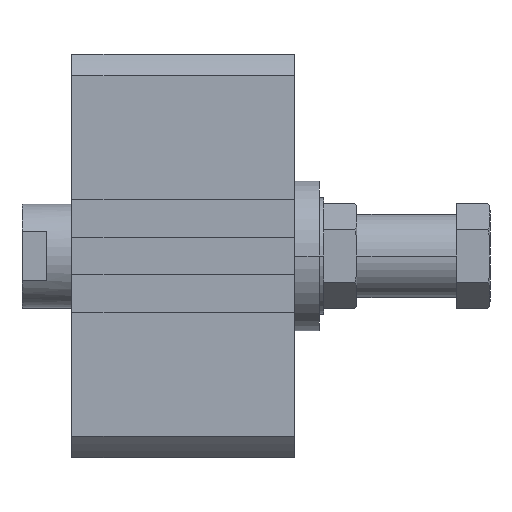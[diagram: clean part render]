
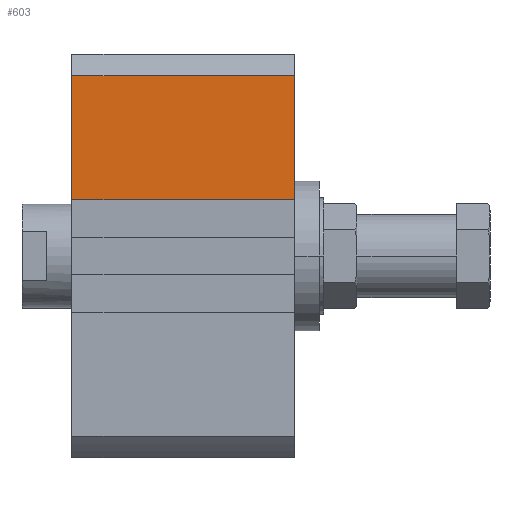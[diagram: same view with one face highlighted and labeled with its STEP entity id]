
A CAD part, left-side view. The second image highlights one B-rep face of the part: STEP entity #603.
In plain terms, the highlighted planar face has unit normal (-1, 0, 0).
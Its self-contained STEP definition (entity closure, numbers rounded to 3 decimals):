
#91 = ORIENTED_EDGE ( 'NONE', *, *, #1215, .F. ) ;
#128 = DIRECTION ( 'NONE',  ( 0., 0., 1. ) ) ;
#129 = ORIENTED_EDGE ( 'NONE', *, *, #3583, .T. ) ;
#195 = LINE ( 'NONE', #1828, #3735 ) ;
#578 = FACE_OUTER_BOUND ( 'NONE', #3543, .T. ) ;
#603 = ADVANCED_FACE ( 'NONE', ( #578 ), #865, .T. ) ;
#865 = PLANE ( 'NONE',  #1961 ) ;
#919 = VERTEX_POINT ( 'NONE', #4372 ) ;
#1024 = DIRECTION ( 'NONE',  ( 0., 1., 0. ) ) ;
#1207 = CARTESIAN_POINT ( 'NONE',  ( -48.5, -53.5, 0. ) ) ;
#1215 = EDGE_CURVE ( 'NONE', #4068, #2865, #2207, .T. ) ;
#1560 = CARTESIAN_POINT ( 'NONE',  ( -48.5, -53.5, 0. ) ) ;
#1564 = DIRECTION ( 'NONE',  ( -1., 0., 0. ) ) ;
#1584 = DIRECTION ( 'NONE',  ( 0., 0., 1. ) ) ;
#1638 = ORIENTED_EDGE ( 'NONE', *, *, #2832, .F. ) ;
#1828 = CARTESIAN_POINT ( 'NONE',  ( -48.5, 0., 0. ) ) ;
#1961 = AXIS2_PLACEMENT_3D ( 'NONE', #1207, #1564, #1584 ) ;
#2207 = LINE ( 'NONE', #2762, #4325 ) ;
#2236 = VECTOR ( 'NONE', #3899, 1000. ) ;
#2407 = VECTOR ( 'NONE', #3994, 1000. ) ;
#2529 = CARTESIAN_POINT ( 'NONE',  ( -48.5, 0., 13.5 ) ) ;
#2641 = ORIENTED_EDGE ( 'NONE', *, *, #3102, .T. ) ;
#2762 = CARTESIAN_POINT ( 'NONE',  ( -48.5, -53.5, 13.5 ) ) ;
#2832 = EDGE_CURVE ( 'NONE', #2865, #919, #195, .T. ) ;
#2840 = VERTEX_POINT ( 'NONE', #3972 ) ;
#2865 = VERTEX_POINT ( 'NONE', #2529 ) ;
#2877 = CARTESIAN_POINT ( 'NONE',  ( -48.5, -53.5, 43.275 ) ) ;
#3005 = CARTESIAN_POINT ( 'NONE',  ( -48.5, -53.5, 13.5 ) ) ;
#3102 = EDGE_CURVE ( 'NONE', #4068, #2840, #3733, .T. ) ;
#3149 = LINE ( 'NONE', #2877, #2236 ) ;
#3543 = EDGE_LOOP ( 'NONE', ( #1638, #91, #2641, #129 ) ) ;
#3583 = EDGE_CURVE ( 'NONE', #2840, #919, #3149, .T. ) ;
#3733 = LINE ( 'NONE', #1560, #2407 ) ;
#3735 = VECTOR ( 'NONE', #128, 1000. ) ;
#3899 = DIRECTION ( 'NONE',  ( 0., 1., 0. ) ) ;
#3972 = CARTESIAN_POINT ( 'NONE',  ( -48.5, -53.5, 43.275 ) ) ;
#3994 = DIRECTION ( 'NONE',  ( 0., 0., 1. ) ) ;
#4068 = VERTEX_POINT ( 'NONE', #3005 ) ;
#4325 = VECTOR ( 'NONE', #1024, 1000. ) ;
#4372 = CARTESIAN_POINT ( 'NONE',  ( -48.5, 0., 43.275 ) ) ;
